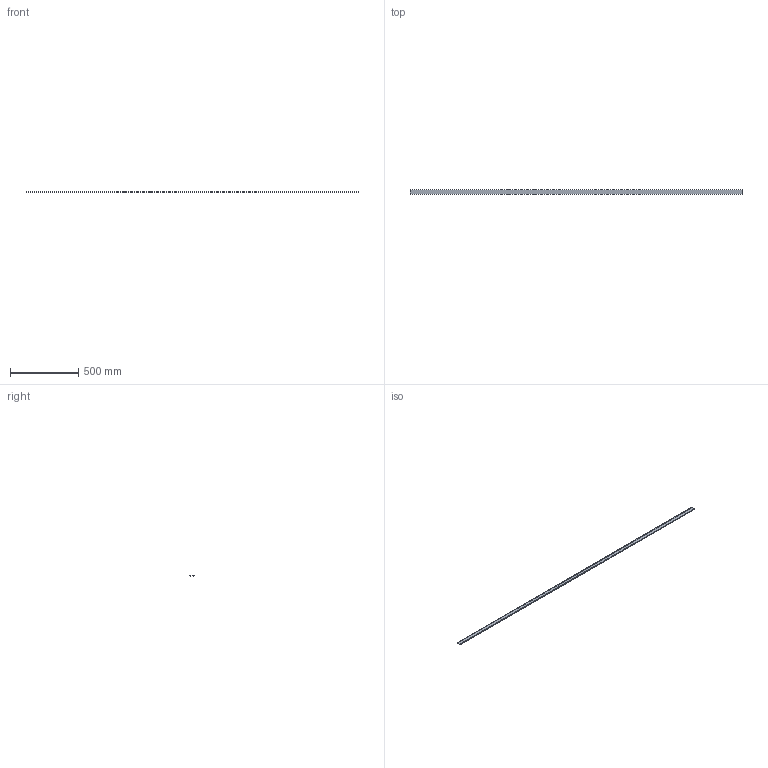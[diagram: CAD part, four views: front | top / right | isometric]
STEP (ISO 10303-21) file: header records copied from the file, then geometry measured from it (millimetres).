
FILE_DESCRIPTION((''),'2;1');
FILE_NAME('GTB13B08','2016-08-16T',('adam.dellomodarme'),(''),'PRO/ENGINEER BY PARAMETRIC TECHNOLOGY CORPORATION, 2012420','PRO/ENGINEER BY PARAMETRIC TECHNOLOGY CORPORATION, 2012420','');
FILE_SCHEMA(('CONFIG_CONTROL_DESIGN'));
Length unit declared in the file: inch
Products named in the file (1): GTB13B08
Bounding box: 2438.4 x 32 x 6.5 mm (x, y, z)
Volume: 206892.1 mm3; surface area: 220777.6 mm2
Topology: 1 solids, 1 shells, 22 faces, 60 edges, 40 vertices
Faces by surface type: plane 18, cylinder 4
Entity records: 732 total; most frequent: CARTESIAN_POINT 122, ORIENTED_EDGE 120, DIRECTION 112, EDGE_CURVE 60, VECTOR 52, LINE 52, VERTEX_POINT 40, AXIS2_PLACEMENT_3D 30
